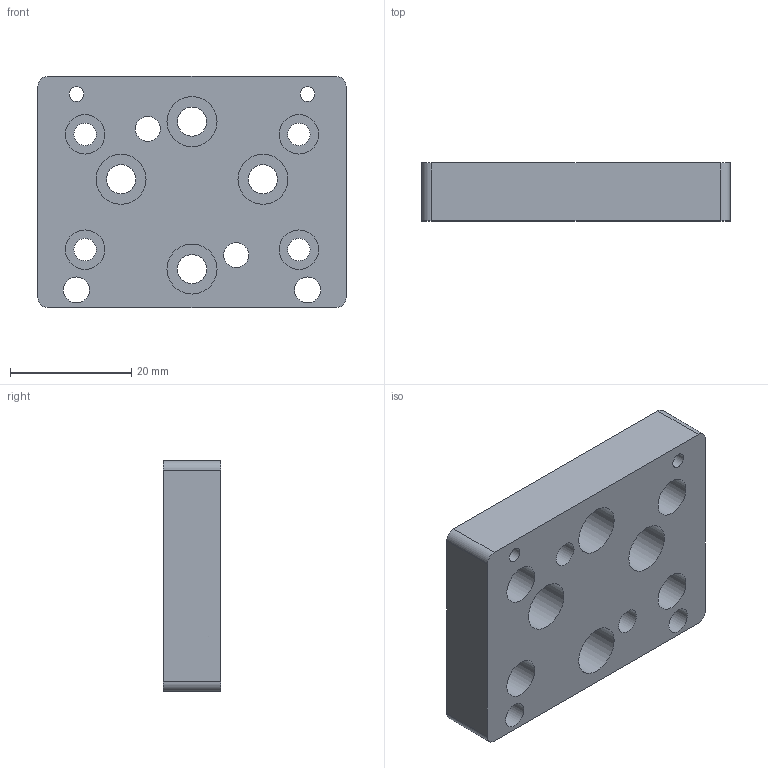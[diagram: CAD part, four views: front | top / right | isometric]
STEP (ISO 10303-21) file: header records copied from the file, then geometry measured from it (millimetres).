
FILE_DESCRIPTION(/* description */ ('Unknown'),/* implementation_level */ '2;1');
FILE_NAME(/* name */ 'SLM-552XS-K-IVG',/* time_stamp */ '2017-01-18T14:19:21-05:00',/* author */ ('Unknown'),/* organization */ ('Unknown'),/* preprocessor_version */ 'ST-DEVELOPER v16.7',/* originating_system */ 'DEX',/* authorisation */ $);
FILE_SCHEMA (('AUTOMOTIVE_DESIGN {1 0 10303 214 3 1 1}'));
Length unit declared in the file: millimetre
Products named in the file (1): SLM-552XS-K-IVG
Bounding box: 50.8 x 9.53 x 38.1 mm (x, y, z)
Volume: 14899.3 mm3; surface area: 7448.7 mm2
Topology: 1 solids, 1 shells, 40 faces, 96 edges, 66 vertices
Faces by surface type: cylinder 26, plane 14
Full cylindrical faces by diameter (mm): 2.459 x2, 3.7 x4, 4.134 x2, 4.3 x2, 4.8 x4, 6.5 x4, 8.25 x4
Entity records: 1396 total; most frequent: DIRECTION 202, CARTESIAN_POINT 169, ORIENTED_EDGE 136, EDGE_LOOP 98, FACE_BOUND 98, AXIS2_PLACEMENT_3D 93, EDGE_CURVE 68, VERTEX_POINT 60
